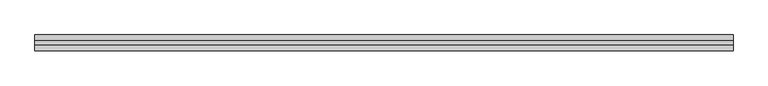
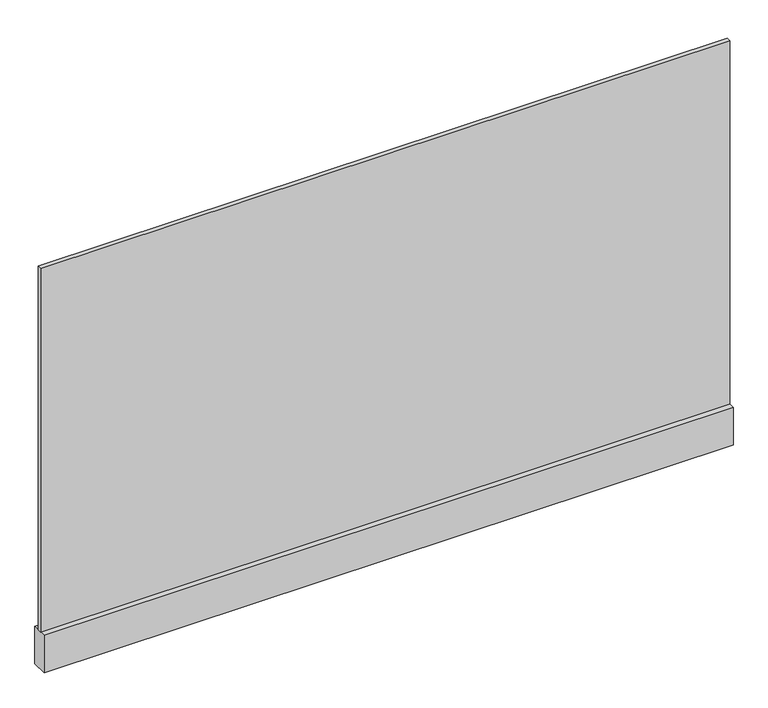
"""IFC4 building model written with IfcOpenShell, lengths in millimetres: plate geometry, r パネル FIX 下框付 : 框 H100."""

from ifc_helpers import new_model, si_unit, frame, origin, origin_with_axes, place, context, project, spatial, polyline, outline, extrude, source, transform, mapped, element, save


def plate_365944b3(model_context):
    return source(origin(), model_context, "Body", "SweptSolid", [
        extrude(outline(polyline([(-873.3333333, 5.0), (873.3333333, 5.0), (873.3333333, -5.0), (-873.3333333, -5.0), (-873.3333333, 5.0)])), frame((0.0, 0.0, 100.0), z_axis=(0.0, 0.0, 1.0), x_axis=(1.0, 0.0, 0.0)), (0.0, 0.0, 1.0), 975.0),
        extrude(outline(polyline([(-873.3333333, 20.0), (873.3333333, 20.0), (873.3333333, -20.0), (-873.3333333, -20.0), (-873.3333333, 20.0)])), origin_with_axes(), (0.0, 0.0, 1.0), 100.0),
    ])


if __name__ == "__main__":
    model = new_model("IFC4")
    model_context = context("Model", 3, world=origin())
    ifc_project = project(units=[si_unit("LENGTHUNIT", "METRE", prefix="MILLI")], contexts=[model_context])
    site = spatial("IfcSite", under=ifc_project)
    building = spatial("IfcBuilding", under=site)
    placement = place(None, origin())
    plate_shape = plate_365944b3(model_context)
    element("IfcPlate", 1, ObjectType="r パネル FIX 下框付 : 框 H100", at=placement, inside=building, context=model_context, shape_type="MappedRepresentation", body=[
        mapped(plate_shape, transform((0.0, 0.0, 0.0), x_axis=(1.0, 0.0, 0.0), y_axis=(0.0, 1.0, 0.0), z_axis=(0.0, 0.0, 1.0))),
    ])
    save(model, "model.ifc")
